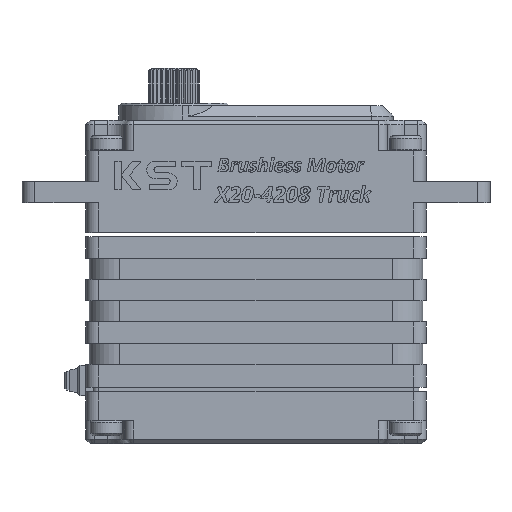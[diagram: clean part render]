
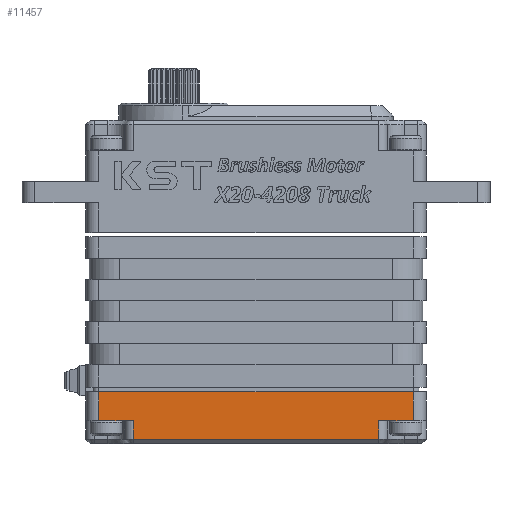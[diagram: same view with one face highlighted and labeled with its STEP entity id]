
A CAD part, front view. The second image highlights one B-rep face of the part: STEP entity #11457.
In plain terms, the highlighted planar face has unit normal (0, -1, 0).
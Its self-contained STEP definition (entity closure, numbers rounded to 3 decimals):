
#623 = CARTESIAN_POINT ( 'NONE',  ( 1.153, 25.209, -16.276 ) ) ;
#1182 = ORIENTED_EDGE ( 'NONE', *, *, #47458, .T. ) ;
#2075 = CARTESIAN_POINT ( 'NONE',  ( -4.797, 25.209, -18.911 ) ) ;
#2426 = VECTOR ( 'NONE', #46097, 1000. ) ;
#2875 = DIRECTION ( 'NONE',  ( 1., 0., 0. ) ) ;
#3775 = LINE ( 'NONE', #25566, #8932 ) ;
#4056 = VERTEX_POINT ( 'NONE', #40459 ) ;
#6438 = ORIENTED_EDGE ( 'NONE', *, *, #21889, .T. ) ;
#7365 = CARTESIAN_POINT ( 'NONE',  ( -0.697, 25.209, -16.276 ) ) ;
#8932 = VECTOR ( 'NONE', #26180, 1000. ) ;
#9510 = DIRECTION ( 'NONE',  ( 1., 0., 0. ) ) ;
#9814 = EDGE_CURVE ( 'NONE', #45979, #44376, #30364, .T. ) ;
#10742 = VERTEX_POINT ( 'NONE', #47955 ) ;
#11042 = CARTESIAN_POINT ( 'NONE',  ( -33.597, 25.209, -16.276 ) ) ;
#11457 = ADVANCED_FACE ( 'NONE', ( #28267 ), #29018, .T. ) ;
#14582 = DIRECTION ( 'NONE',  ( 0., 0., -1. ) ) ;
#14839 = VECTOR ( 'NONE', #9510, 1000. ) ;
#21228 = EDGE_CURVE ( 'NONE', #44376, #55098, #44532, .T. ) ;
#21889 = EDGE_CURVE ( 'NONE', #32756, #4056, #25238, .T. ) ;
#22908 = EDGE_CURVE ( 'NONE', #24999, #32756, #3775, .T. ) ;
#24751 = LINE ( 'NONE', #54986, #34347 ) ;
#24999 = VERTEX_POINT ( 'NONE', #7365 ) ;
#25238 = LINE ( 'NONE', #32674, #43690 ) ;
#25566 = CARTESIAN_POINT ( 'NONE',  ( -0.697, 25.209, -18.911 ) ) ;
#26180 = DIRECTION ( 'NONE',  ( 0., 0., 1. ) ) ;
#28267 = FACE_OUTER_BOUND ( 'NONE', #57472, .T. ) ;
#28633 = CARTESIAN_POINT ( 'NONE',  ( -0.697, 25.209, -12.876 ) ) ;
#29018 = PLANE ( 'NONE',  #61136 ) ;
#30081 = EDGE_CURVE ( 'NONE', #4056, #45979, #47569, .T. ) ;
#30364 = LINE ( 'NONE', #623, #14839 ) ;
#30789 = LINE ( 'NONE', #2075, #40413 ) ;
#30843 = ORIENTED_EDGE ( 'NONE', *, *, #49822, .T. ) ;
#31970 = VECTOR ( 'NONE', #37359, 1000. ) ;
#32649 = ORIENTED_EDGE ( 'NONE', *, *, #21228, .T. ) ;
#32674 = CARTESIAN_POINT ( 'NONE',  ( 1.153, 25.209, -12.876 ) ) ;
#32756 = VERTEX_POINT ( 'NONE', #28633 ) ;
#33393 = CARTESIAN_POINT ( 'NONE',  ( 1.153, 25.209, -18.911 ) ) ;
#34347 = VECTOR ( 'NONE', #2875, 1000. ) ;
#37359 = DIRECTION ( 'NONE',  ( 0., 0., -1. ) ) ;
#38013 = CARTESIAN_POINT ( 'NONE',  ( -37.697, 25.209, -16.276 ) ) ;
#38747 = DIRECTION ( 'NONE',  ( 0., -1., 0. ) ) ;
#40068 = LINE ( 'NONE', #60252, #2426 ) ;
#40329 = ORIENTED_EDGE ( 'NONE', *, *, #9814, .T. ) ;
#40413 = VECTOR ( 'NONE', #45996, 1000. ) ;
#40459 = CARTESIAN_POINT ( 'NONE',  ( -37.697, 25.209, -12.876 ) ) ;
#43690 = VECTOR ( 'NONE', #55751, 1000. ) ;
#44376 = VERTEX_POINT ( 'NONE', #11042 ) ;
#44532 = LINE ( 'NONE', #59983, #31970 ) ;
#45497 = ORIENTED_EDGE ( 'NONE', *, *, #59456, .T. ) ;
#45733 = CARTESIAN_POINT ( 'NONE',  ( -4.797, 25.209, -18.476 ) ) ;
#45979 = VERTEX_POINT ( 'NONE', #38013 ) ;
#45996 = DIRECTION ( 'NONE',  ( 0., 0., 1. ) ) ;
#46097 = DIRECTION ( 'NONE',  ( 1., 0., 0. ) ) ;
#47458 = EDGE_CURVE ( 'NONE', #10742, #24999, #40068, .T. ) ;
#47569 = LINE ( 'NONE', #53105, #54157 ) ;
#47955 = CARTESIAN_POINT ( 'NONE',  ( -4.797, 25.209, -16.276 ) ) ;
#49822 = EDGE_CURVE ( 'NONE', #50568, #10742, #30789, .T. ) ;
#50568 = VERTEX_POINT ( 'NONE', #45733 ) ;
#53105 = CARTESIAN_POINT ( 'NONE',  ( -37.697, 25.209, -18.911 ) ) ;
#53767 = ORIENTED_EDGE ( 'NONE', *, *, #22908, .T. ) ;
#54157 = VECTOR ( 'NONE', #57813, 1000. ) ;
#54986 = CARTESIAN_POINT ( 'NONE',  ( -40.867, 25.209, -18.476 ) ) ;
#55098 = VERTEX_POINT ( 'NONE', #58597 ) ;
#55751 = DIRECTION ( 'NONE',  ( -1., 0., 0. ) ) ;
#57472 = EDGE_LOOP ( 'NONE', ( #61103, #40329, #32649, #45497, #30843, #1182, #53767, #6438 ) ) ;
#57813 = DIRECTION ( 'NONE',  ( 0., 0., -1. ) ) ;
#58597 = CARTESIAN_POINT ( 'NONE',  ( -33.597, 25.209, -18.476 ) ) ;
#59456 = EDGE_CURVE ( 'NONE', #55098, #50568, #24751, .T. ) ;
#59983 = CARTESIAN_POINT ( 'NONE',  ( -33.597, 25.209, -18.911 ) ) ;
#60252 = CARTESIAN_POINT ( 'NONE',  ( 1.153, 25.209, -16.276 ) ) ;
#61103 = ORIENTED_EDGE ( 'NONE', *, *, #30081, .T. ) ;
#61136 = AXIS2_PLACEMENT_3D ( 'NONE', #33393, #38747, #14582 ) ;
